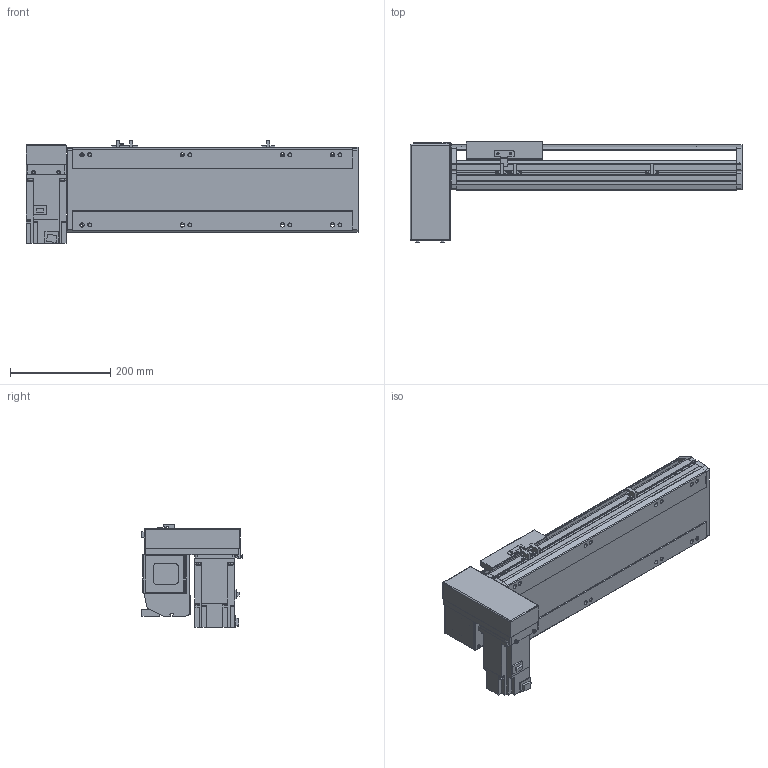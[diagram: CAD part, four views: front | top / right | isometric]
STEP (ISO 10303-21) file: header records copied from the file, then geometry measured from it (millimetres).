
FILE_DESCRIPTION(/* description */ ('STEP AP214'),/* implementation_level */ '2;1');
FILE_NAME(/* name */ 'PBS170-P40-S300-RD-T75-C1-N(0)',/* time_stamp */ '2022-06-08T07:34:12+02:00',/* author */ ('License CC BY-ND 4.0'),/* organization */ ('CADENAS'),/* preprocessor_version */ 'ST-DEVELOPER v18.102',/* originating_system */ 'PARTsolutions',/* authorisation */ ' ');
FILE_SCHEMA (('AUTOMOTIVE_DESIGN {1 0 10303 214 3 1 1}'));
Length unit declared in the file: millimetre
Products named in the file (7): PBS170-P40-S300-RD-T75-C1-N(0); PBS170_sensor; PBS170_plant; PBS170_sliser; T75-p1; PBS170T-RD_motors; PBS170-S300()_body
Assembly tree (8 placements, depth 2):
  PBS170-P40-S300-RD-T75-C1-N(0)
    PBS170_sensor  x3
    PBS170_plant
    PBS170_sliser
    T75-p1
    PBS170T-RD_motors
    PBS170-S300()_body
Bounding box: 663 x 201 x 205.3 mm (x, y, z)
Volume: 6001633.3 mm3; surface area: 838828 mm2
Topology: 8 solids, 8 shells, 1018 faces, 2715 edges, 1770 vertices
Faces by surface type: plane 663, cylinder 307, cone 38, sphere 8, torus 2
Full cylindrical faces by diameter (mm): 3.242 x4, 4 x2, 4.4 x4, 4.5 x6, 4.917 x4, 6 x9, 6.647 x16, 7 x2, 7.5 x4, 8 x8, 8.5 x8, 10 x4, 10.5 x8, 11 x2, 30 x2, 40 x1, 70 x1
Entity records: 29286 total; most frequent: CARTESIAN_POINT 5265, DIRECTION 5020, ORIENTED_EDGE 4788, EDGE_CURVE 2394, AXIS2_PLACEMENT_3D 1717, VERTEX_POINT 1634, LINE 1586, VECTOR 1586
